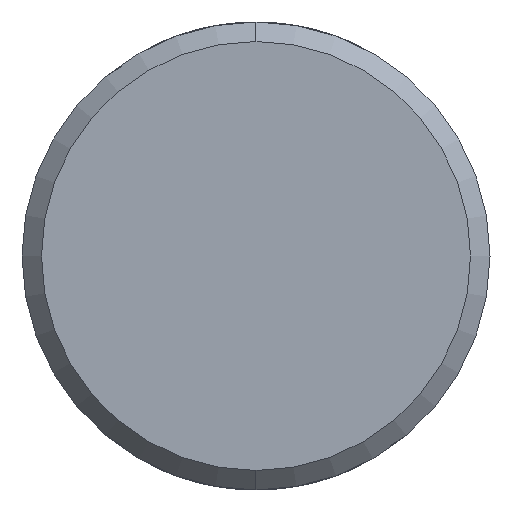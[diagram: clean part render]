
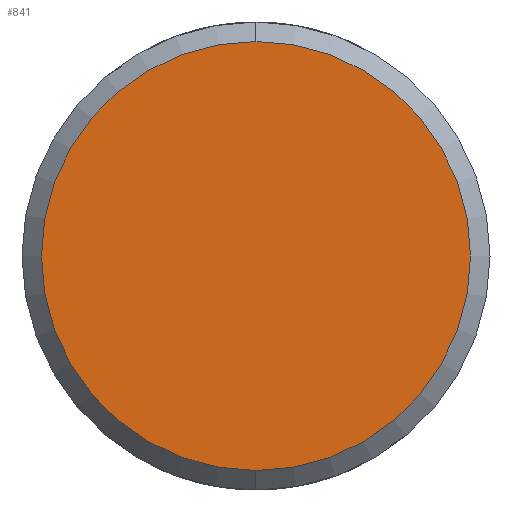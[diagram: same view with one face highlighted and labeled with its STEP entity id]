
A CAD part, left-side view. The second image highlights one B-rep face of the part: STEP entity #841.
In plain terms, the highlighted planar face has unit normal (-1, 0, 0).
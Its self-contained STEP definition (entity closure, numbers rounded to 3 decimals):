
#2 = CARTESIAN_POINT ( 'NONE',  ( -157., 0., 0. ) ) ;
#50 = CIRCLE ( 'NONE', #383, 5.5 ) ;
#61 = VERTEX_POINT ( 'NONE', #567 ) ;
#95 = DIRECTION ( 'NONE',  ( 0., 0., -1. ) ) ;
#97 = DIRECTION ( 'NONE',  ( 0., 0., -1. ) ) ;
#109 = VERTEX_POINT ( 'NONE', #364 ) ;
#196 = AXIS2_PLACEMENT_3D ( 'NONE', #2, #712, #252 ) ;
#207 = ORIENTED_EDGE ( 'NONE', *, *, #955, .T. ) ;
#252 = DIRECTION ( 'NONE',  ( 0., 0., -1. ) ) ;
#259 = CARTESIAN_POINT ( 'NONE',  ( -157., 0., 0. ) ) ;
#284 = FACE_OUTER_BOUND ( 'NONE', #621, .T. ) ;
#325 = PLANE ( 'NONE',  #878 ) ;
#332 = DIRECTION ( 'NONE',  ( -1., 0., 0. ) ) ;
#364 = CARTESIAN_POINT ( 'NONE',  ( -157., 0., 5.5 ) ) ;
#383 = AXIS2_PLACEMENT_3D ( 'NONE', #259, #332, #97 ) ;
#398 = ORIENTED_EDGE ( 'NONE', *, *, #831, .T. ) ;
#468 = DIRECTION ( 'NONE',  ( 1., 0., 0. ) ) ;
#473 = CARTESIAN_POINT ( 'NONE',  ( -157., 0., 0. ) ) ;
#567 = CARTESIAN_POINT ( 'NONE',  ( -157., 0., -5.5 ) ) ;
#621 = EDGE_LOOP ( 'NONE', ( #207, #398 ) ) ;
#638 = CIRCLE ( 'NONE', #196, 5.5 ) ;
#712 = DIRECTION ( 'NONE',  ( -1., 0., 0. ) ) ;
#831 = EDGE_CURVE ( 'NONE', #109, #61, #638, .T. ) ;
#841 = ADVANCED_FACE ( 'NONE', ( #284 ), #325, .F. ) ;
#878 = AXIS2_PLACEMENT_3D ( 'NONE', #473, #468, #95 ) ;
#955 = EDGE_CURVE ( 'NONE', #61, #109, #50, .T. ) ;
